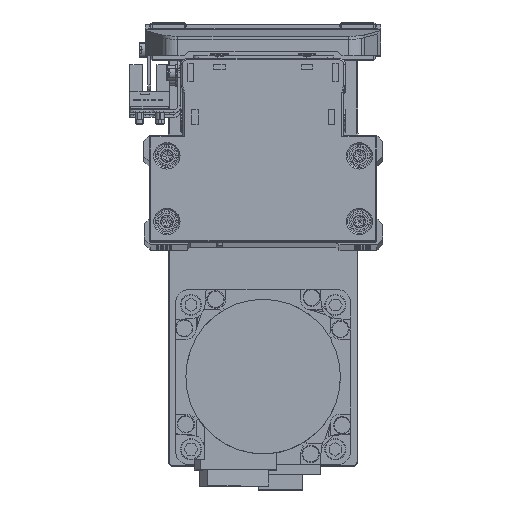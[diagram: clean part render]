
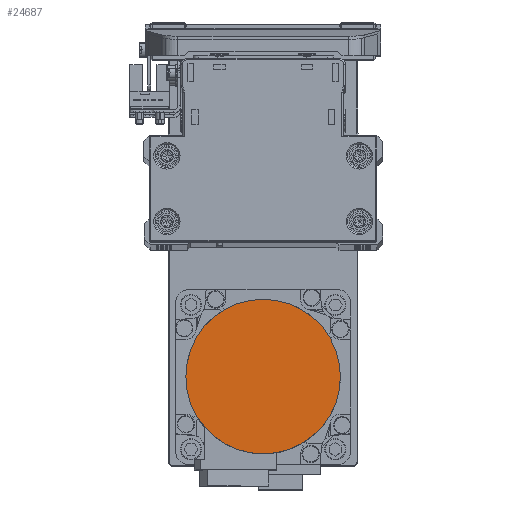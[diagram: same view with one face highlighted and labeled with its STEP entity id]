
A CAD part, top view. The second image highlights one B-rep face of the part: STEP entity #24687.
In plain terms, the highlighted planar face has unit normal (0, 0, 1) as drawn and (0, 0, -1) by its records, which use the part's own axes.
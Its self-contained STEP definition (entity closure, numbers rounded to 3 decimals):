
#996 = DIRECTION ( 'NONE',  ( 1., 0., 0. ) ) ;
#2973 = CIRCLE ( 'NONE', #26425, 26.5 ) ;
#3655 = DIRECTION ( 'NONE',  ( -1., 0., 0. ) ) ;
#4141 = PLANE ( 'NONE',  #24244 ) ;
#5367 = VERTEX_POINT ( 'NONE', #27932 ) ;
#9363 = DIRECTION ( 'NONE',  ( 0., 0., 1. ) ) ;
#10210 = CIRCLE ( 'NONE', #33644, 26.5 ) ;
#16276 = VERTEX_POINT ( 'NONE', #40502 ) ;
#16919 = CARTESIAN_POINT ( 'NONE',  ( 0., 0., -109.7 ) ) ;
#19583 = CARTESIAN_POINT ( 'NONE',  ( 0., 0., -109.7 ) ) ;
#22144 = DIRECTION ( 'NONE',  ( 1., 0., 0. ) ) ;
#22458 = ORIENTED_EDGE ( 'NONE', *, *, #30384, .F. ) ;
#24244 = AXIS2_PLACEMENT_3D ( 'NONE', #16919, #29719, #996 ) ;
#24687 = ADVANCED_FACE ( 'NONE', ( #32864 ), #4141, .F. ) ;
#26226 = EDGE_CURVE ( 'NONE', #16276, #5367, #10210, .T. ) ;
#26378 = EDGE_LOOP ( 'NONE', ( #22458, #34376 ) ) ;
#26425 = AXIS2_PLACEMENT_3D ( 'NONE', #19583, #32389, #3655 ) ;
#27932 = CARTESIAN_POINT ( 'NONE',  ( -26.5, 0., -109.7 ) ) ;
#29719 = DIRECTION ( 'NONE',  ( 0., 0., 1. ) ) ;
#30384 = EDGE_CURVE ( 'NONE', #5367, #16276, #2973, .T. ) ;
#32389 = DIRECTION ( 'NONE',  ( 0., 0., 1. ) ) ;
#32864 = FACE_OUTER_BOUND ( 'NONE', #26378, .T. ) ;
#33644 = AXIS2_PLACEMENT_3D ( 'NONE', #38097, #9363, #22144 ) ;
#34376 = ORIENTED_EDGE ( 'NONE', *, *, #26226, .F. ) ;
#38097 = CARTESIAN_POINT ( 'NONE',  ( 0., 0., -109.7 ) ) ;
#40502 = CARTESIAN_POINT ( 'NONE',  ( 26.5, 0., -109.7 ) ) ;
